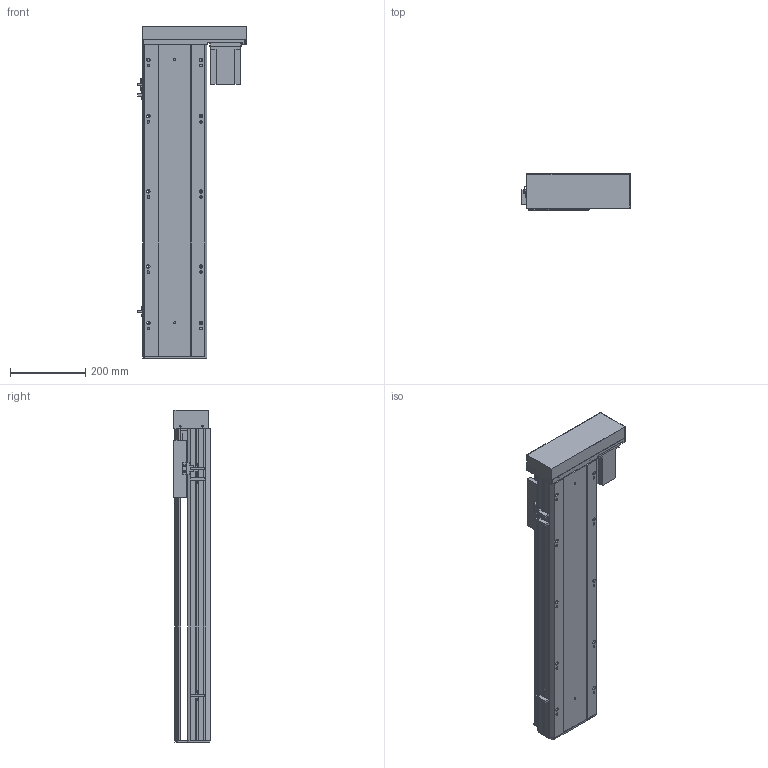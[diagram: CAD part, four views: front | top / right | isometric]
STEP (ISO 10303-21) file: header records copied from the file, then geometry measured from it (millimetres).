
FILE_DESCRIPTION (( 'STEP AP203' ), '1' );
FILE_NAME ('Y170-D10-S600-BR-P750W.STEP', '2020-01-21T12:21:29', ( '微软用户' ), ( '微软中国' ), 'SwSTEP 2.0', 'SolidWorks 2017', '' );
FILE_SCHEMA (( 'CONFIG_CONTROL_DESIGN' ));
Length unit declared in the file: millimetre
Products named in the file (12): EGH20賑輸_蕼偞; Y雄赽釱-耜蚾; Y170-陔遴奻裔-BR; Y-BL.BR-俋欶; Y--BL蟀諉啣-陔遴-; Y170耜裔--準---; YD-Y100-135-新外置传感挡片(通用）; 170--掛极-BR; Y100-135俋离換覜ん; Y170-BL-P750W楊擘啣; Y170-D10-S600-BR-P750W; 侂狟750W
Assembly tree (14 placements, depth 2):
  Y170-D10-S600-BR-P750W
    Y170耜裔--準---
    170--掛极-BR
    Y170-BL-P750W楊擘啣
    侂狟750W
    EGH20賑輸_蕼偞  x2
    Y雄赽釱-耜蚾
    Y170-陔遴奻裔-BR
    Y-BL.BR-俋欶
    Y--BL蟀諉啣-陔遴-
    YD-Y100-135-新外置传感挡片(通用）
    Y100-135俋离換覜ん  x3
Bounding box: 289 x 97 x 883.5 mm (x, y, z)
Volume: 4594996.8 mm3; surface area: 1549721.7 mm2
Topology: 14 solids, 14 shells, 909 faces, 2546 edges, 1680 vertices
Faces by surface type: cylinder 450, plane 443, cone 16
Entity records: 28570 total; most frequent: CARTESIAN_POINT 4998, DIRECTION 4748, ORIENTED_EDGE 4588, EDGE_CURVE 2294, AXIS2_PLACEMENT_3D 1682, VERTEX_POINT 1524, VECTOR 1384, LINE 1384
